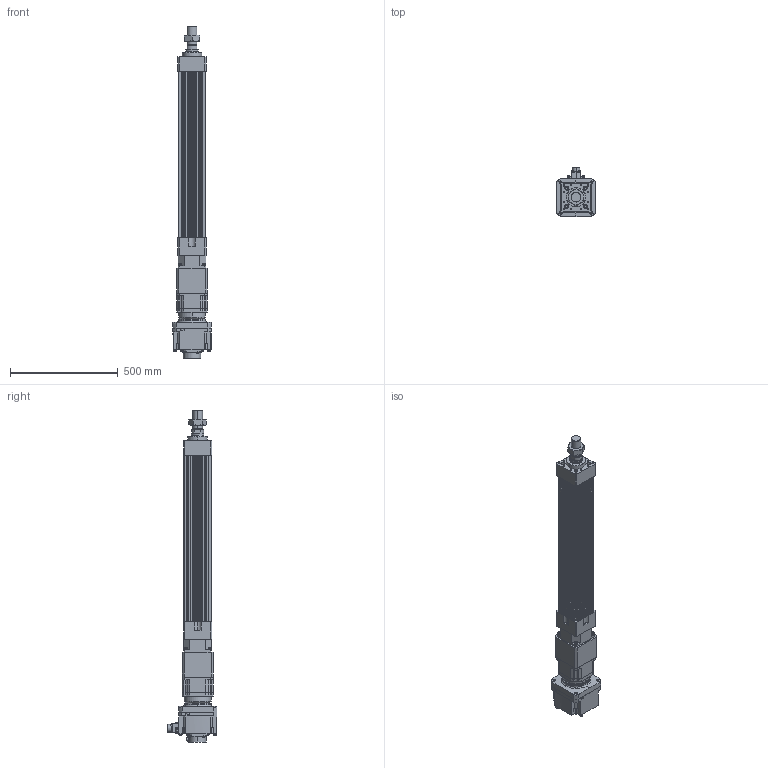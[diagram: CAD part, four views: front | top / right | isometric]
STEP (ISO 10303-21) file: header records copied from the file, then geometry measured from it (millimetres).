
FILE_DESCRIPTION (( 'STEP AP203' ), '1' );
FILE_NAME ('HES130FS(HS)-S550-W020G00-M.STEP', '2023-01-30T11:54:50', ( 'tms' ), ( '' ), 'SwSTEP 2.0', 'SolidWorks 2013', '' );
FILE_SCHEMA (( 'CONFIG_CONTROL_DESIGN' ));
Length unit declared in the file: millimetre
Products named in the file (9): AB1421; HES130 ROD M ST550; AB142-003[HG-SR352]; M45X1.5P; HES130-S550-G142; P0403500801; HG-SR202; HES130FS(HS)-S550-W020G00-M; P1301500001
Assembly tree (8 placements, depth 3):
  HES130FS(HS)-S550-W020G00-M
    HES130-S550-G142
    HES130 ROD M ST550
    M45X1.5P
    AB142-003[HG-SR352]
      AB1421
      P1301500001
      P0403500801
    HG-SR202
Bounding box: 176 x 228.85 x 1537.5 mm (x, y, z)
Volume: 13344983.8 mm3; surface area: 1742341.2 mm2
Topology: 4 solids, 22 shells, 1527 faces, 3928 edges, 2530 vertices
Faces by surface type: cylinder 683, plane 580, cone 182, bspline 76, torus 6
Entity records: 55214 total; most frequent: CARTESIAN_POINT 16756, DIRECTION 8052, ORIENTED_EDGE 7718, EDGE_CURVE 3881, AXIS2_PLACEMENT_3D 3043, VERTEX_POINT 2530, LINE 1966, VECTOR 1966
